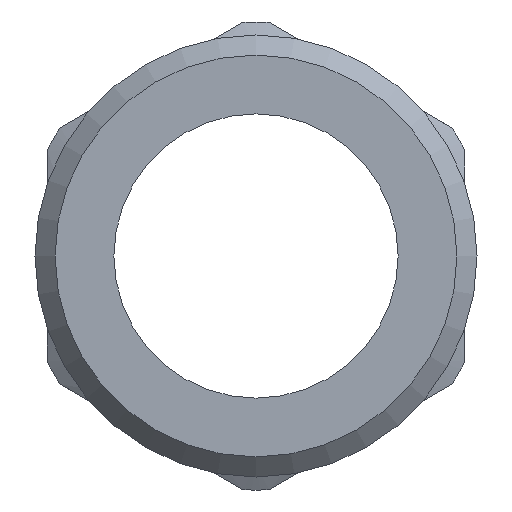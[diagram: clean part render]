
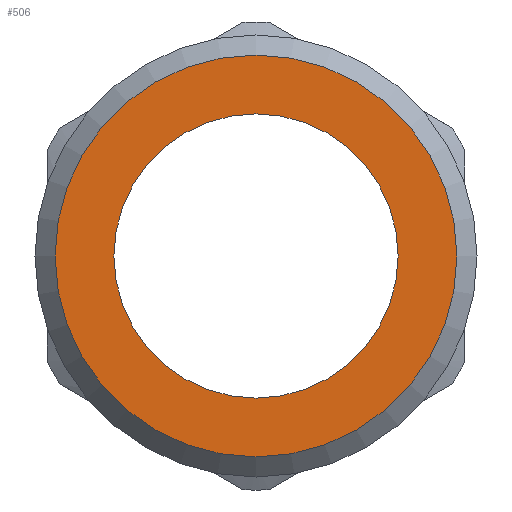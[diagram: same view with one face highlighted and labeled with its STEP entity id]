
A CAD part, left-side view. The second image highlights one B-rep face of the part: STEP entity #506.
In plain terms, the highlighted planar face has unit normal (-1, 0, 0).
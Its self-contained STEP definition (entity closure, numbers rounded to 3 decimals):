
#20=FACE_BOUND('',#152,.T.);
#64=CIRCLE('',#587,8.5);
#65=CIRCLE('',#589,12.021);
#112=FACE_OUTER_BOUND('',#151,.T.);
#151=EDGE_LOOP('',(#439));
#152=EDGE_LOOP('',(#440));
#255=VERTEX_POINT('',#933);
#256=VERTEX_POINT('',#936);
#323=EDGE_CURVE('',#255,#255,#64,.T.);
#324=EDGE_CURVE('',#256,#256,#65,.T.);
#439=ORIENTED_EDGE('',*,*,#324,.F.);
#440=ORIENTED_EDGE('',*,*,#323,.T.);
#478=PLANE('',#588);
#506=ADVANCED_FACE('',(#112,#20),#478,.T.);
#587=AXIS2_PLACEMENT_3D('',#934,#722,#723);
#588=AXIS2_PLACEMENT_3D('',#935,#724,#725);
#589=AXIS2_PLACEMENT_3D('',#937,#726,#727);
#722=DIRECTION('center_axis',(1.,0.,0.));
#723=DIRECTION('ref_axis',(0.,1.,0.));
#724=DIRECTION('center_axis',(-1.,0.,0.));
#725=DIRECTION('ref_axis',(0.,0.,1.));
#726=DIRECTION('center_axis',(1.,0.,0.));
#727=DIRECTION('ref_axis',(0.,1.,0.));
#933=CARTESIAN_POINT('',(-12.,8.5,0.));
#934=CARTESIAN_POINT('Origin',(-12.,0.,0.));
#935=CARTESIAN_POINT('Origin',(-12.,10.26,0.));
#936=CARTESIAN_POINT('',(-12.,12.021,0.));
#937=CARTESIAN_POINT('Origin',(-12.,0.,0.));
